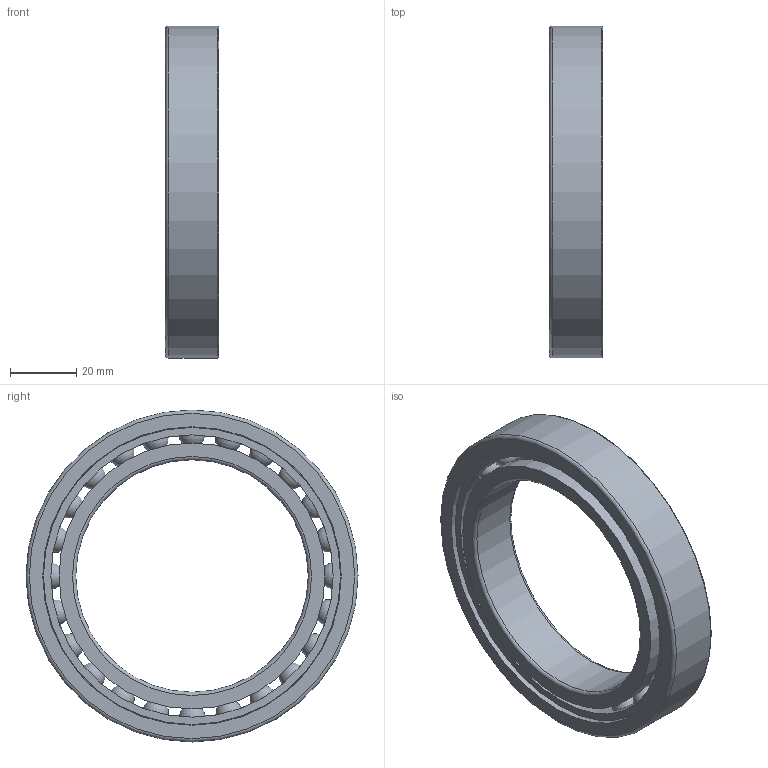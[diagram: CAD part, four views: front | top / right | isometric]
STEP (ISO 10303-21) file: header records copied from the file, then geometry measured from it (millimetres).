
FILE_DESCRIPTION(/* description */ (''),/* implementation_level */ '2;1');
FILE_NAME(/* name */ 'SM_61914_TA.step',/* time_stamp */ '2013-03-11T11:35:49+01:00',/* author */ ('Marian'),/* organization */ ('GMN'),/* preprocessor_version */ 'ST-DEVELOPER v11',/* originating_system */ 'SIEMENS UGS NX 6.0',/* authorisation */ '');
FILE_SCHEMA (('CONFIG_CONTROL_DESIGN'));
Length unit declared in the file: millimetre
Products named in the file (1): SM_61914_TA
Bounding box: 16 x 100 x 100 mm (x, y, z)
Volume: 48384.4 mm3; surface area: 34111.1 mm2
Topology: 27 solids, 27 shells, 68 faces, 182 edges, 118 vertices
Faces by surface type: cylinder 31, sphere 24, torus 6, plane 6, cone 1
Full cylindrical faces by diameter (mm): 8.138 x24, 70 x1, 80.1 x2, 84.998 x1, 89.5 x1, 89.9 x1, 100 x1
Entity records: 4194 total; most frequent: CARTESIAN_POINT 2965, DIRECTION 178, FACE_BOUND 160, EDGE_LOOP 136, ORIENTED_EDGE 136, VERTEX_POINT 92, AXIS2_PLACEMENT_3D 89, EDGE_CURVE 68
